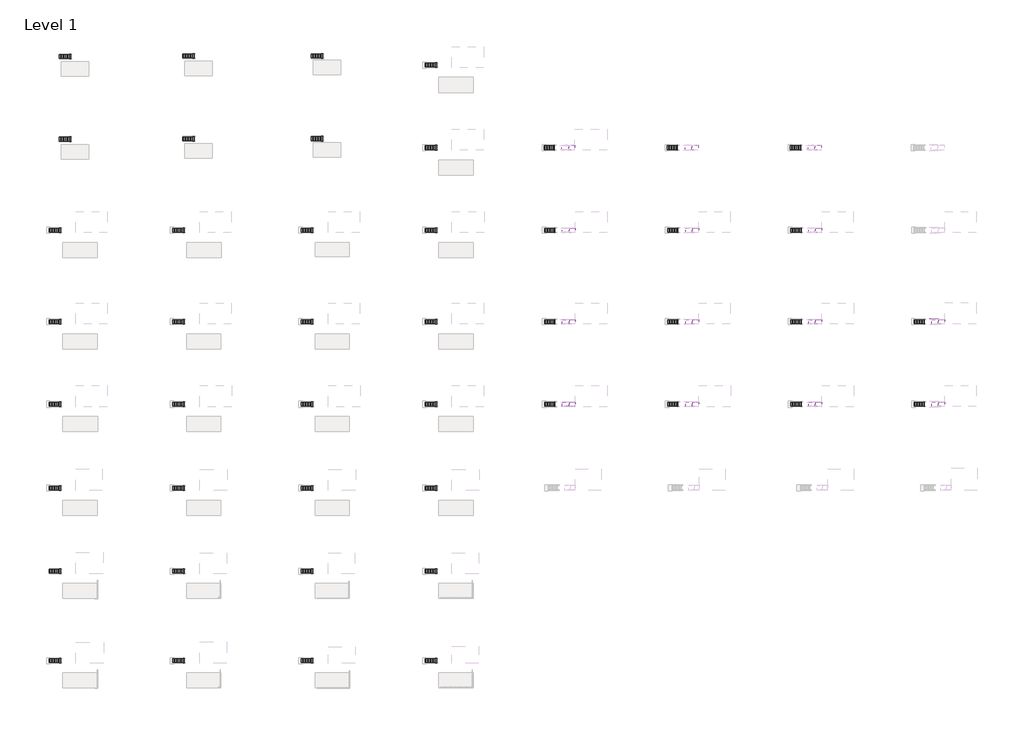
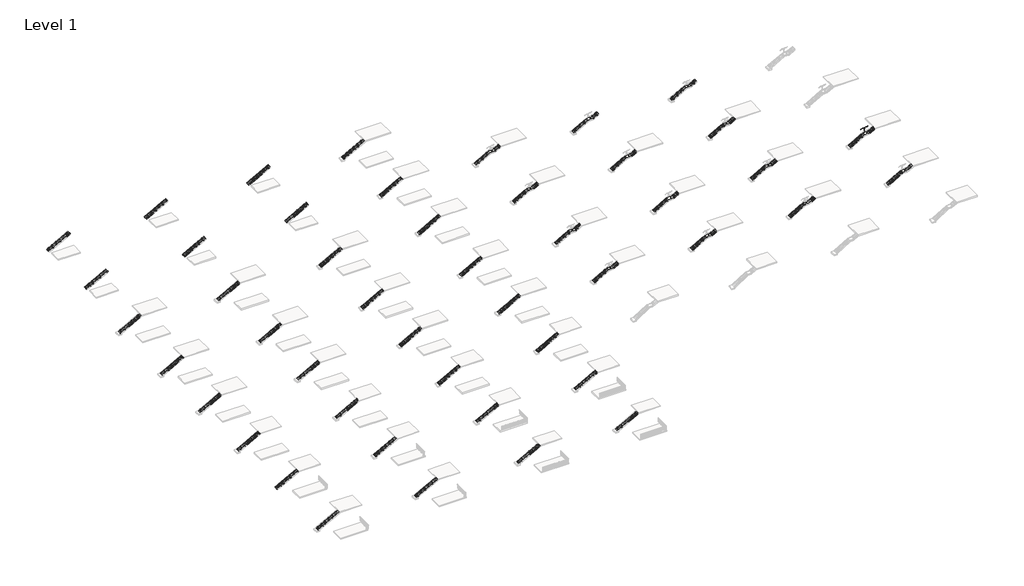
# One storey, part 28 of 36: 60 stair flights, 14 slabs, 1 railing.
"""IFC4 building model written with IfcOpenShell, lengths in millimetres."""

from ifc_helpers import new_model, si_unit, point, frame, frame_2d, origin, place, context, project, spatial, polyline, circle_curve, ellipse_curve, trimmed, segment, composite_curve, outline, extrude, transform, mapped, element, save
from ifc_brep_helpers import plane_surface, cylinder_surface, revolved_surface, advanced_brep
from components import non_monolithic_landing_ada5ac22, non_monolithic_landing_e0ff2bb4, non_monolithic_landing_e2370479, non_monolithic_landing_4aac39f3, non_monolithic_landing_6fb80745, non_monolithic_landing_be884bdb, non_monolithic_landing_87ee3a28, non_monolithic_landing_f27b7801, non_monolithic_landing_4aff053a, non_monolithic_landing_a7db1183, non_monolithic_landing_63f62785, non_monolithic_landing_69d5495d, non_monolithic_landing_90918b11, non_monolithic_landing_5d93acd5, stair_flight_29aa7a5e, stair_flight_80cff1b7, stair_flight_8e8130a2, stair_flight_fd9954e7, stair_flight_75b3b417, stair_flight_6f39d71a, stair_flight_cde1ea60, stair_flight_880be68a, stair_flight_54c0e317, stair_flight_4c12d816, stair_flight_4dab80b4, stair_flight_2d7099d6, stair_flight_d89cc62d, stair_flight_032d6450, stair_flight_6f00a75b, stair_flight_b4fc23ee, stair_flight_1a475ef1, stair_flight_e65b083a, stair_flight_a9e391cd, stair_flight_ea38ce52, stair_flight_579046b4, stair_flight_a4d97b63, stair_flight_d66cefcb, stair_flight_99901bd0, stair_flight_d6851f9f, stair_flight_cf73235f, stair_flight_5fa4b5d9, stair_flight_0c7f6dce, stair_flight_51c20a19, stair_flight_7c217fa4, stair_flight_b50581c1, stair_flight_dd9f26f4, stair_flight_8ca85bbc, stair_flight_9eae0647, stair_flight_39490ed9, stair_flight_10330e09, stair_flight_98662bac, stair_flight_fd0bef6d, stair_flight_df6e5273, stair_flight_89b698f5, stair_flight_f0a76901, stair_flight_8c9df97d, stair_flight_08e099c6, stair_flight_44d7aaed, stair_flight_6d338f01, stair_flight_8d318a11, stair_flight_28e633dc, stair_flight_106992fd, stair_flight_ad2e2b70, stair_flight_30a18637, stair_flight_90295c1e, stair_flight_840a28c2, stair_flight_46b084b7, stair_flight_d5f8b534, stair_flight_011fdecc, stair_flight_89fbb5f7, stair_flight_832208c3, stair_flight_b01917b2, stair_flight_5dec0d6c, stair_flight_9864251a

model = new_model("IFC4")

# Units and contexts
model_context = context("Model", 3, world=origin())
ifc_project = project(units=[si_unit("LENGTHUNIT", "METRE", prefix="MILLI")], contexts=[model_context])

# Site, building, storey
site = spatial("IfcSite", under=ifc_project)
building = spatial("IfcBuilding", under=site)
storey = spatial("IfcBuildingStorey", under=building, Name="Level 1", Elevation=0.0)

# Railing
placement = place(None, origin())
element("IfcRailing", 1, ObjectType="VIVA-BLADE-Perforated-Fascia Mount-Stair-Landing", at=placement, inside=storey, context=model_context, shape_type="SolidModel", body=[
    advanced_brep(
    [(161125.2211992, -1375.9711813, 3047.7740933), (161125.2211992, -1325.1711813, 3047.7740933), (161512.9665359, -1375.9711813, 3269.3428571), (161512.9665359, -1325.1711813, 3269.3428571), (162579.7665359, -1375.9711813, 3269.3428571), (162579.7665359, -1325.1711813, 3269.3428571), (162830.1961992, -1375.9711813, 3412.4455219), (162830.1961992, -1325.1711813, 3412.4455219)],
    [
        (0, 1, ellipse_curve(frame((161125.2211992, -1350.5711813, 3047.7740933), z_axis=(-1.0, 0.0, 0.0), x_axis=(0.0, 0.0, -1.0)), 29.2544781, 25.4)),
        (1, 0, ellipse_curve(frame((161125.2211992, -1350.5711813, 3047.7740933), z_axis=(-1.0, 0.0, 0.0), x_axis=(0.0, 0.0, -1.0)), 29.2544781, 25.4)),
        (0, 2),
        (2, 3, ellipse_curve(frame((161512.9665359, -1350.5711813, 3269.3428571), z_axis=(-0.9664996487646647, 0.0, -0.25666793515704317), x_axis=(0.2566679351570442, 0.0, -0.9664996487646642)), 26.2804027, 25.4)),
        (3, 1),
        (3, 2, ellipse_curve(frame((161512.9665359, -1350.5711813, 3269.3428571), z_axis=(-0.9664996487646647, 0.0, -0.25666793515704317), x_axis=(0.2566679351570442, 0.0, -0.9664996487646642)), 26.2804027, 25.4)),
        (2, 4),
        (4, 5, ellipse_curve(frame((162579.7665359, -1350.5711813, 3269.3428571), z_axis=(-0.966499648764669, 0.0, -0.25666793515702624), x_axis=(-0.25666793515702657, 0.0, 0.966499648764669)), 26.2804027, 25.4)),
        (5, 3),
        (5, 4, ellipse_curve(frame((162579.7665359, -1350.5711813, 3269.3428571), z_axis=(-0.966499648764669, 0.0, -0.25666793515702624), x_axis=(-0.25666793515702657, 0.0, 0.966499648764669)), 26.2804027, 25.4)),
        (6, 7, ellipse_curve(frame((162830.1961992, -1350.5711813, 3412.4455219), z_axis=(1.0, 0.0, 0.0), x_axis=(0.0, 0.0, -1.0)), 29.2544781, 25.4)),
        (7, 6, ellipse_curve(frame((162830.1961992, -1350.5711813, 3412.4455219), z_axis=(1.0, 0.0, 0.0), x_axis=(0.0, 0.0, -1.0)), 29.2544781, 25.4)),
        (4, 6),
        (7, 5),
    ],
    [
        plane_surface(frame((161125.2211992, -1350.5711813, 3077.0285714), z_axis=(-1.0, 0.0, 0.0), x_axis=(0.0, 1.0, 0.0))),
        cylinder_surface(frame((161137.8231282, -1350.5711813, 3054.9751956), z_axis=(-0.8682431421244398, 0.0, -0.49613893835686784), x_axis=(0.0, 1.0, 0.0)), 25.4),
        cylinder_surface(frame((161506.2211992, -1350.5711813, 3269.3428571), z_axis=(-1.0, 0.0, 0.0), x_axis=(0.0, 1.0, 0.0)), 25.4),
        plane_surface(frame((162830.1961992, -1350.5711813, 3441.7), z_axis=(1.0, 0.0, 0.0), x_axis=(0.0, 1.0, 0.0))),
        cylinder_surface(frame((162585.6231282, -1350.5711813, 3272.6894813), z_axis=(-0.8682431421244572, 0.0, -0.49613893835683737), x_axis=(0.0, 1.0, 0.0)), 25.4),
    ],
    [
        (0, [[1, 2]]),
        (1, [[-1, 3, 4, 5]]),
        (1, [[-2, -5, 6, -3]]),
        (2, [[-4, 7, 8, 9]]),
        (2, [[-6, -9, 10, -7]]),
        (3, [[11, 12]]),
        (4, [[-8, 13, -12, 14]]),
        (4, [[-10, -14, -11, -13]]),
    ],
),
    extrude(outline(composite_curve([segment(trimmed(circle_curve(frame_2d((0.0, -7.0)), 7.0), [point((0.0, -14.0))], [point((0.0, 0.0))], False, "CARTESIAN"), True, "CONTINUOUS"), segment(trimmed(circle_curve(frame_2d((0.0, -7.0)), 7.0), [point((0.0, 0.0))], [point((0.0, -14.0))], False, "CARTESIAN"), True, "CONTINUOUS")], self_intersect=False)), frame((161977.6244493, -1436.2548038, 3013.7229503), z_axis=(0.0012555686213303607, 0.0, 0.999999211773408), x_axis=(0.999999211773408, 0.0, -0.0012555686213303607)), (0.0, 0.0, 1.0), 75.97),
    extrude(outline(composite_curve([segment(polyline([(-1430.9731476, 3098.2581672), (-1429.9467579, 3097.2407802)]), True, "CONTINUOUS"), segment(trimmed(circle_curve(frame_2d((-1431.0027358, 3096.1754583)), 1.5), [point((-1429.9467579, 3097.2407802))], [point((-1430.0173343, 3095.0445366))], False, "CARTESIAN"), True, "CONTINUOUS"), segment(trimmed(circle_curve(frame_2d((-1444.5027358, 3111.669086)), 22.05), [point((-1430.0173343, 3095.0445366))], [point((-1458.9881373, 3095.0445366))], False, "CARTESIAN"), True, "CONTINUOUS"), segment(trimmed(circle_curve(frame_2d((-1458.0027358, 3096.1754583)), 1.5), [point((-1458.9881373, 3095.0445366))], [point((-1459.0587136, 3097.2407802))], False, "CARTESIAN"), True, "CONTINUOUS"), segment(polyline([(-1459.0587136, 3097.2407802), (-1458.032324, 3098.2581672)]), True, "CONTINUOUS"), segment(trimmed(circle_curve(frame_2d((-1444.5027358, 3111.669086)), 19.05), [point((-1458.032324, 3098.2581672))], [point((-1430.9731476, 3098.2581672))], True, "CARTESIAN"), True, "CONTINUOUS")], self_intersect=False)), frame((161941.2730645, 0.0, 0.0), z_axis=(1.0, 0.0, 0.0), x_axis=(0.0, 1.0, 0.0)), (0.0, 0.0, 1.0), 74.5229187),
    extrude(outline(composite_curve([segment(trimmed(circle_curve(frame_2d((3040.5995463, 161977.6843528)), 12.5), [point((3040.5995463, 161965.1843528))], [point((3040.5995463, 161990.1843528))], False, "CARTESIAN"), True, "CONTINUOUS"), segment(trimmed(circle_curve(frame_2d((3040.5995463, 161977.6843528)), 12.5), [point((3040.5995463, 161990.1843528))], [point((3040.5995463, 161965.1843528))], False, "CARTESIAN"), True, "CONTINUOUS")], self_intersect=False)), frame((0.0, -1458.032324, 0.0), z_axis=(0.0, 1.0, 0.0), x_axis=(0.0, 0.0, 1.0)), (0.0, 0.0, 1.0), 82.061346),
    extrude(outline(polyline([(162004.7835349, -1382.320978), (161950.6561349, -1382.320978), (161950.6561349, -1375.970978), (162004.7835349, -1375.970978), (162004.7835349, -1382.320978)])), frame((0.0, 0.0, 3013.6558249), z_axis=(0.0, 0.0, 1.0), x_axis=(1.0, 0.0, 0.0)), (0.0, 0.0, 1.0), 54.1734375),
    advanced_brep(
    [(162022.9460992, -1363.3313049, 3247.3396226), (162022.9460992, -1367.1672024, 3242.9503901), (162022.9460992, -1335.6503101, 3242.3696317), (162022.9460992, -1338.4592404, 3247.1963856), (161932.4712992, -1363.3313049, 3247.3396226), (161932.4712992, -1338.3722683, 3247.2447018), (161932.4712992, -1335.5365167, 3242.4322535), (161932.4712992, -1367.1672024, 3242.9503901)],
    [
        (0, 1, circle_curve(frame((162022.9460992, -1364.8788626, 3244.8213092), z_axis=(1.0, 0.0, 0.0), x_axis=(0.0, -1.0, 0.0)), 2.9558141)),
        (1, 2, circle_curve(frame((162022.9460992, -1350.9009651, 3270.2170736), z_axis=(1.0, 0.0, 0.0), x_axis=(0.0, -1.0, 0.0)), 31.75)),
        (2, 3, circle_curve(frame((162022.9460992, -1337.1276152, 3244.742217), z_axis=(1.0, 0.0, 0.0), x_axis=(0.0, -1.0, 0.0)), 2.7949225)),
        (3, 0, circle_curve(frame((162022.9460992, -1350.7675021, 3269.4544469), z_axis=(-1.0, 0.0, 0.0), x_axis=(0.0, -1.0, 0.0)), 25.4345159)),
        (4, 5, circle_curve(frame((161932.4712992, -1350.7675021, 3269.4544469), z_axis=(1.0, 0.0, 0.0), x_axis=(0.0, -1.0, 0.0)), 25.4345159)),
        (5, 6, circle_curve(frame((161932.4712992, -1337.1276152, 3244.742217), z_axis=(-1.0, 0.0, 0.0), x_axis=(0.0, -1.0, 0.0)), 2.7949225)),
        (6, 7, circle_curve(frame((161932.4712992, -1350.9009651, 3270.2170736), z_axis=(-1.0, 0.0, 0.0), x_axis=(0.0, -1.0, 0.0)), 31.75)),
        (7, 4, circle_curve(frame((161932.4712992, -1364.8788626, 3244.8213092), z_axis=(-1.0, 0.0, 0.0), x_axis=(0.0, -1.0, 0.0)), 2.9558141)),
        (3, 5),
        (4, 0),
        (2, 6),
        (1, 7),
    ],
    [
        plane_surface(frame((162022.9460992, -1376.2020179, 3269.4544469), z_axis=(1.0, 0.0, 0.0), x_axis=(0.0, 0.0, -1.0))),
        plane_surface(frame((161932.4712992, -1376.2020179, 3269.4544469), z_axis=(-1.0, 0.0, 0.0), x_axis=(0.0, 0.0, 1.0))),
        revolved_surface(polyline([(161932.4712992, -1376.202018, 3269.4544469), (162022.9460992, -1376.202018, 3269.4544469)]), (161932.4712992, -1350.7675021, 3269.4544469), (-1.0, 0.0, 0.0)),
        cylinder_surface(frame((161932.4712992, -1337.1276152, 3244.742217), z_axis=(1.0, 0.0, 0.0), x_axis=(0.0, -1.0, 0.0)), 2.7949225),
        cylinder_surface(frame((161932.4712992, -1350.9009651, 3270.2170736), z_axis=(1.0, 0.0, 0.0), x_axis=(0.0, -1.0, 0.0)), 31.75),
        cylinder_surface(frame((161932.4712992, -1364.8788626, 3244.8213092), z_axis=(1.0, 0.0, 0.0), x_axis=(0.0, -1.0, 0.0)), 2.9558141),
    ],
    [
        (0, [[1, 2, 3, 4]]),
        (1, [[5, 6, 7, 8]]),
        (2, [[9, -5, 10, -4]]),
        (3, [[11, -6, -9, -3]]),
        (4, [[12, -7, -11, -2]]),
        (5, [[-10, -8, -12, -1]]),
    ],
),
    extrude(outline(polyline([(162041.1967623, -1426.771387), (161914.1967623, -1426.771387), (161914.1967623, -1417.246387), (162041.1967623, -1417.246387), (162041.1967623, -1426.771387)])), frame((0.0, 0.0, 2024.7428571), z_axis=(0.0, 0.0, 1.0), x_axis=(1.0, 0.0, 0.0)), (0.0, 0.0, 1.0), 127.0),
    extrude(outline(composite_curve([segment(trimmed(circle_curve(frame_2d((3229.6553571, 162004.776614)), 14.3679149), [point((3229.6553571, 161990.4086992))], [point((3244.023272, 162004.776614))], True, "CARTESIAN"), True, "CONTINUOUS"), segment(polyline([(3244.023272, 162004.776614), (3244.023272, 161950.6407843)]), True, "CONTINUOUS"), segment(trimmed(circle_curve(frame_2d((3229.6553571, 161950.6407843)), 14.3679149), [point((3244.023272, 161950.6407843))], [point((3229.6553571, 161965.0086992))], True, "CARTESIAN"), True, "CONTINUOUS"), segment(polyline([(3229.6553571, 161965.0086992), (3229.6553571, 161990.4086992)]), True, "CONTINUOUS")], self_intersect=False)), frame((0.0, -1353.1111813, 0.0), z_axis=(0.0, 1.0, 0.0), x_axis=(0.0, 0.0, 1.0)), (0.0, 0.0, 1.0), 5.08),
    extrude(outline(polyline([(161985.6377004, -1407.721387), (161969.70171, -1407.721387), (161969.70171, -1375.9705791), (161985.6377004, -1375.9705791), (161985.6377004, -1407.721387)])), frame((0.0, 0.0, 2056.4928571), z_axis=(0.0, 0.0, 1.0), x_axis=(1.0, 0.0, 0.0)), (0.0, 0.0, 1.0), 63.5),
    extrude(outline(polyline([(161950.6338635, -1375.970978), (161950.6338635, -1325.1686534), (161958.6586992, -1325.1686534), (161958.6586992, -1375.970978), (161950.6338635, -1375.970978)])), frame((0.0, 0.0, 2269.3940557), z_axis=(0.0, 0.0, 1.0), x_axis=(1.0, 0.0, 0.0)), (0.0, 0.0, 1.0), 942.7988015),
    extrude(outline(polyline([(2024.7428571, 161914.1967623), (2024.7428571, 162041.1967623), (2151.7428571, 162041.1967623), (2151.7428571, 161914.1967623), (2024.7428571, 161914.1967623)]), holes=[composite_curve([segment(trimmed(circle_curve(frame_2d((2132.6928571, 161933.2467623)), 4.7068371), [point((2132.6928571, 161937.9535994))], [point((2132.6928571, 161928.5399252))], True, "CARTESIAN"), True, "CONTINUOUS"), segment(trimmed(circle_curve(frame_2d((2132.6928571, 161933.2467623)), 4.7068371), [point((2132.6928571, 161928.5399252))], [point((2132.6928571, 161937.9535994))], True, "CARTESIAN"), True, "CONTINUOUS")], self_intersect=False), composite_curve([segment(trimmed(circle_curve(frame_2d((2132.6928571, 162022.1467623)), 4.7068371), [point((2132.6928571, 162026.8535994))], [point((2132.6928571, 162017.4399252))], True, "CARTESIAN"), True, "CONTINUOUS"), segment(trimmed(circle_curve(frame_2d((2132.6928571, 162022.1467623)), 4.7068371), [point((2132.6928571, 162017.4399252))], [point((2132.6928571, 162026.8535994))], True, "CARTESIAN"), True, "CONTINUOUS")], self_intersect=False), composite_curve([segment(trimmed(circle_curve(frame_2d((2043.7928571, 162022.1467623)), 4.7068371), [point((2043.7928571, 162026.8535994))], [point((2043.7928571, 162017.4399252))], True, "CARTESIAN"), True, "CONTINUOUS"), segment(trimmed(circle_curve(frame_2d((2043.7928571, 162022.1467623)), 4.7068371), [point((2043.7928571, 162017.4399252))], [point((2043.7928571, 162026.8535994))], True, "CARTESIAN"), True, "CONTINUOUS")], self_intersect=False), composite_curve([segment(trimmed(circle_curve(frame_2d((2043.7928571, 161933.2467623)), 4.7068371), [point((2043.7928571, 161937.9535994))], [point((2043.7928571, 161928.5399252))], True, "CARTESIAN"), True, "CONTINUOUS"), segment(trimmed(circle_curve(frame_2d((2043.7928571, 161933.2467623)), 4.7068371), [point((2043.7928571, 161928.5399252))], [point((2043.7928571, 161937.9535994))], True, "CARTESIAN"), True, "CONTINUOUS")], self_intersect=False)]), frame((0.0, -1417.246387, 0.0), z_axis=(0.0, 1.0, 0.0), x_axis=(0.0, 0.0, 1.0)), (0.0, 0.0, 1.0), 9.525),
    extrude(outline(polyline([(161985.6377004, -1375.9705791), (161969.70171, -1375.9705791), (161969.70171, -1325.1705869), (161985.6377004, -1325.1705869), (161985.6377004, -1375.9705791)])), frame((0.0, 0.0, 2056.4928571), z_axis=(0.0, 0.0, 1.0), x_axis=(1.0, 0.0, 0.0)), (0.0, 0.0, 1.0), 393.7),
    extrude(outline(composite_curve([segment(trimmed(circle_curve(frame_2d((-1337.8687044, 3201.2845501)), 8.89), [point((-1328.9787044, 3201.2845501))], [point((-1346.7587044, 3201.2845501))], False, "CARTESIAN"), True, "CONTINUOUS"), segment(trimmed(circle_curve(frame_2d((-1337.8687044, 3201.2845501)), 8.89), [point((-1346.7587044, 3201.2845501))], [point((-1328.9787044, 3201.2845501))], False, "CARTESIAN"), True, "CONTINUOUS")], self_intersect=False)), frame((161945.9586992, 0.0, 0.0), z_axis=(1.0, 0.0, 0.0), x_axis=(0.0, 1.0, 0.0)), (0.0, 0.0, 1.0), 63.4880631),
    extrude(outline(composite_curve([segment(trimmed(circle_curve(frame_2d((-1363.2686024, 3201.2845501)), 8.89), [point((-1354.3786024, 3201.2845501))], [point((-1372.1586024, 3201.2845501))], False, "CARTESIAN"), True, "CONTINUOUS"), segment(trimmed(circle_curve(frame_2d((-1363.2686024, 3201.2845501)), 8.89), [point((-1372.1586024, 3201.2845501))], [point((-1354.3786024, 3201.2845501))], False, "CARTESIAN"), True, "CONTINUOUS")], self_intersect=False)), frame((161945.9586992, 0.0, 0.0), z_axis=(1.0, 0.0, 0.0), x_axis=(0.0, 1.0, 0.0)), (0.0, 0.0, 1.0), 63.4880631),
    extrude(outline(polyline([(3189.9551571, 161958.6586992), (3189.9551571, 161996.7586992), (3223.3053571, 161996.7586992), (3229.6553571, 161990.4086992), (3229.6553571, 161965.0086992), (3223.3053571, 161958.6586992), (3189.9551571, 161958.6586992)])), frame((0.0, -1375.9711813, 0.0), z_axis=(0.0, 1.0, 0.0), x_axis=(0.0, 0.0, 1.0)), (0.0, 0.0, 1.0), 50.8025279),
    extrude(outline(composite_curve([segment(trimmed(circle_curve(frame_2d((-1350.571387, 2416.8976493)), 19.05), [point((-1331.521387, 2416.8976493))], [point((-1369.621387, 2416.8976493))], False, "CARTESIAN"), True, "CONTINUOUS"), segment(trimmed(circle_curve(frame_2d((-1350.571387, 2416.8976493)), 19.05), [point((-1369.621387, 2416.8976493))], [point((-1331.521387, 2416.8976493))], False, "CARTESIAN"), True, "CONTINUOUS")], self_intersect=False)), frame((161941.2596992, 0.0, 0.0), z_axis=(1.0, 0.0, 0.0), x_axis=(0.0, 1.0, 0.0)), (0.0, 0.0, 1.0), 72.8981531),
    extrude(outline(composite_curve([segment(trimmed(circle_curve(frame_2d((-1350.571387, 2327.9976493)), 19.05), [point((-1331.521387, 2327.9976493))], [point((-1369.621387, 2327.9976493))], False, "CARTESIAN"), True, "CONTINUOUS"), segment(trimmed(circle_curve(frame_2d((-1350.571387, 2327.9976493)), 19.05), [point((-1369.621387, 2327.9976493))], [point((-1331.521387, 2327.9976493))], False, "CARTESIAN"), True, "CONTINUOUS")], self_intersect=False)), frame((161941.2596992, 0.0, 0.0), z_axis=(1.0, 0.0, 0.0), x_axis=(0.0, 1.0, 0.0)), (0.0, 0.0, 1.0), 72.8981531),
    extrude(outline(polyline([(161996.7586611, -1375.970978), (161996.7586611, -1325.1686534), (162004.7596611, -1325.1686534), (162004.7596611, -1375.970978), (161996.7586611, -1375.970978)])), frame((0.0, 0.0, 2269.3940557), z_axis=(0.0, 0.0, 1.0), x_axis=(1.0, 0.0, 0.0)), (0.0, 0.0, 1.0), 942.7988015),
])

# Slabs
non_monolithic_landing_shape = non_monolithic_landing_ada5ac22(model_context)
element("IfcSlab", 2, ObjectType="Non-Monolithic Landing", at=placement, inside=storey, context=model_context, shape_type="MappedRepresentation", body=[
    mapped(non_monolithic_landing_shape, transform((0.0, 0.0, 0.0), x_axis=(1.0, 0.0, 0.0), y_axis=(0.0, 1.0, 0.0), z_axis=(0.0, 0.0, 1.0))),
])
non_monolithic_landing_2_shape = non_monolithic_landing_e0ff2bb4(model_context)
element("IfcSlab", 3, ObjectType="Non-Monolithic Landing", at=placement, inside=storey, context=model_context, shape_type="MappedRepresentation", body=[
    mapped(non_monolithic_landing_2_shape, transform((0.0, 0.0, 0.0), x_axis=(1.0, 0.0, 0.0), y_axis=(0.0, 1.0, 0.0), z_axis=(0.0, 0.0, 1.0))),
])
non_monolithic_landing_3_shape = non_monolithic_landing_e2370479(model_context)
element("IfcSlab", 4, ObjectType="Non-Monolithic Landing", at=placement, inside=storey, context=model_context, shape_type="MappedRepresentation", body=[
    mapped(non_monolithic_landing_3_shape, transform((0.0, 0.0, 0.0), x_axis=(1.0, 0.0, 0.0), y_axis=(0.0, 1.0, 0.0), z_axis=(0.0, 0.0, 1.0))),
])
non_monolithic_landing_4_shape = non_monolithic_landing_4aac39f3(model_context)
element("IfcSlab", 5, ObjectType="Non-Monolithic Landing", at=placement, inside=storey, context=model_context, shape_type="MappedRepresentation", body=[
    mapped(non_monolithic_landing_4_shape, transform((0.0, 0.0, 0.0), x_axis=(1.0, 0.0, 0.0), y_axis=(0.0, 1.0, 0.0), z_axis=(0.0, 0.0, 1.0))),
])
non_monolithic_landing_5_shape = non_monolithic_landing_6fb80745(model_context)
element("IfcSlab", 6, ObjectType="Non-Monolithic Landing", at=placement, inside=storey, context=model_context, shape_type="MappedRepresentation", body=[
    mapped(non_monolithic_landing_5_shape, transform((0.0, 0.0, 0.0), x_axis=(1.0, 0.0, 0.0), y_axis=(0.0, 1.0, 0.0), z_axis=(0.0, 0.0, 1.0))),
])
non_monolithic_landing_6_shape = non_monolithic_landing_be884bdb(model_context)
element("IfcSlab", 7, ObjectType="Non-Monolithic Landing", at=placement, inside=storey, context=model_context, shape_type="MappedRepresentation", body=[
    mapped(non_monolithic_landing_6_shape, transform((0.0, 0.0, 0.0), x_axis=(1.0, 0.0, 0.0), y_axis=(0.0, 1.0, 0.0), z_axis=(0.0, 0.0, 1.0))),
])
non_monolithic_landing_7_shape = non_monolithic_landing_87ee3a28(model_context)
element("IfcSlab", 8, ObjectType="Non-Monolithic Landing", at=placement, inside=storey, context=model_context, shape_type="MappedRepresentation", body=[
    mapped(non_monolithic_landing_7_shape, transform((0.0, 0.0, 0.0), x_axis=(1.0, 0.0, 0.0), y_axis=(0.0, 1.0, 0.0), z_axis=(0.0, 0.0, 1.0))),
])
non_monolithic_landing_8_shape = non_monolithic_landing_f27b7801(model_context)
element("IfcSlab", 9, ObjectType="Non-Monolithic Landing", at=placement, inside=storey, context=model_context, shape_type="MappedRepresentation", body=[
    mapped(non_monolithic_landing_8_shape, transform((0.0, 0.0, 0.0), x_axis=(1.0, 0.0, 0.0), y_axis=(0.0, 1.0, 0.0), z_axis=(0.0, 0.0, 1.0))),
])
non_monolithic_landing_9_shape = non_monolithic_landing_4aff053a(model_context)
element("IfcSlab", 10, ObjectType="Non-Monolithic Landing", at=placement, inside=storey, context=model_context, shape_type="MappedRepresentation", body=[
    mapped(non_monolithic_landing_9_shape, transform((0.0, 0.0, 0.0), x_axis=(1.0, 0.0, 0.0), y_axis=(0.0, 1.0, 0.0), z_axis=(0.0, 0.0, 1.0))),
])
non_monolithic_landing_10_shape = non_monolithic_landing_a7db1183(model_context)
element("IfcSlab", 11, ObjectType="Non-Monolithic Landing", at=placement, inside=storey, context=model_context, shape_type="MappedRepresentation", body=[
    mapped(non_monolithic_landing_10_shape, transform((0.0, 0.0, 0.0), x_axis=(1.0, 0.0, 0.0), y_axis=(0.0, 1.0, 0.0), z_axis=(0.0, 0.0, 1.0))),
])
non_monolithic_landing_11_shape = non_monolithic_landing_63f62785(model_context)
element("IfcSlab", 12, ObjectType="Non-Monolithic Landing", at=placement, inside=storey, context=model_context, shape_type="MappedRepresentation", body=[
    mapped(non_monolithic_landing_11_shape, transform((0.0, 0.0, 0.0), x_axis=(1.0, 0.0, 0.0), y_axis=(0.0, 1.0, 0.0), z_axis=(0.0, 0.0, 1.0))),
])
non_monolithic_landing_12_shape = non_monolithic_landing_69d5495d(model_context)
element("IfcSlab", 13, ObjectType="Non-Monolithic Landing", at=placement, inside=storey, context=model_context, shape_type="MappedRepresentation", body=[
    mapped(non_monolithic_landing_12_shape, transform((0.0, 0.0, 0.0), x_axis=(1.0, 0.0, 0.0), y_axis=(0.0, 1.0, 0.0), z_axis=(0.0, 0.0, 1.0))),
])
non_monolithic_landing_13_shape = non_monolithic_landing_90918b11(model_context)
element("IfcSlab", 14, ObjectType="Non-Monolithic Landing", at=placement, inside=storey, context=model_context, shape_type="MappedRepresentation", body=[
    mapped(non_monolithic_landing_13_shape, transform((0.0, 0.0, 0.0), x_axis=(1.0, 0.0, 0.0), y_axis=(0.0, 1.0, 0.0), z_axis=(0.0, 0.0, 1.0))),
])
non_monolithic_landing_14_shape = non_monolithic_landing_5d93acd5(model_context)
element("IfcSlab", 15, ObjectType="Non-Monolithic Landing", at=placement, inside=storey, context=model_context, shape_type="MappedRepresentation", body=[
    mapped(non_monolithic_landing_14_shape, transform((0.0, 0.0, 0.0), x_axis=(1.0, 0.0, 0.0), y_axis=(0.0, 1.0, 0.0), z_axis=(0.0, 0.0, 1.0))),
])

# Stair flights
stair_flight_shape = stair_flight_29aa7a5e(model_context)
element("IfcStairFlight", 16, ObjectType="2\" Tread 1/4\" Riser", at=placement, inside=storey, context=model_context, shape_type="MappedRepresentation", body=[
    mapped(stair_flight_shape, transform((0.0, 0.0, 0.0), x_axis=(1.0, 0.0, 0.0), y_axis=(0.0, 1.0, 0.0), z_axis=(0.0, 0.0, 1.0))),
])
stair_flight_2_shape = stair_flight_80cff1b7(model_context)
element("IfcStairFlight", 17, ObjectType="2\" Tread 1/4\" Riser", at=placement, inside=storey, context=model_context, shape_type="MappedRepresentation", body=[
    mapped(stair_flight_2_shape, transform((0.0, 0.0, 0.0), x_axis=(1.0, 0.0, 0.0), y_axis=(0.0, 1.0, 0.0), z_axis=(0.0, 0.0, 1.0))),
])
stair_flight_3_shape = stair_flight_8e8130a2(model_context)
element("IfcStairFlight", 18, ObjectType="2\" Tread 1/4\" Riser", at=placement, inside=storey, context=model_context, shape_type="MappedRepresentation", body=[
    mapped(stair_flight_3_shape, transform((0.0, 0.0, 0.0), x_axis=(1.0, 0.0, 0.0), y_axis=(0.0, 1.0, 0.0), z_axis=(0.0, 0.0, 1.0))),
])
stair_flight_4_shape = stair_flight_fd9954e7(model_context)
element("IfcStairFlight", 19, ObjectType="2\" Tread 1/4\" Riser", at=placement, inside=storey, context=model_context, shape_type="MappedRepresentation", body=[
    mapped(stair_flight_4_shape, transform((0.0, 0.0, 0.0), x_axis=(1.0, 0.0, 0.0), y_axis=(0.0, 1.0, 0.0), z_axis=(0.0, 0.0, 1.0))),
])
stair_flight_5_shape = stair_flight_75b3b417(model_context)
element("IfcStairFlight", 20, ObjectType="2\" Tread 1/4\" Riser", at=placement, inside=storey, context=model_context, shape_type="MappedRepresentation", body=[
    mapped(stair_flight_5_shape, transform((0.0, 0.0, 0.0), x_axis=(1.0, 0.0, 0.0), y_axis=(0.0, 1.0, 0.0), z_axis=(0.0, 0.0, 1.0))),
])
stair_flight_6_shape = stair_flight_6f39d71a(model_context)
element("IfcStairFlight", 21, ObjectType="2\" Tread 1/4\" Riser", at=placement, inside=storey, context=model_context, shape_type="MappedRepresentation", body=[
    mapped(stair_flight_6_shape, transform((0.0, 0.0, 0.0), x_axis=(1.0, 0.0, 0.0), y_axis=(0.0, 1.0, 0.0), z_axis=(0.0, 0.0, 1.0))),
])
stair_flight_7_shape = stair_flight_cde1ea60(model_context)
element("IfcStairFlight", 22, ObjectType="2\" Tread 1/4\" Riser", at=placement, inside=storey, context=model_context, shape_type="MappedRepresentation", body=[
    mapped(stair_flight_7_shape, transform((0.0, 0.0, 0.0), x_axis=(1.0, 0.0, 0.0), y_axis=(0.0, 1.0, 0.0), z_axis=(0.0, 0.0, 1.0))),
])
stair_flight_8_shape = stair_flight_880be68a(model_context)
element("IfcStairFlight", 23, ObjectType="2\" Tread 1/4\" Riser", at=placement, inside=storey, context=model_context, shape_type="MappedRepresentation", body=[
    mapped(stair_flight_8_shape, transform((0.0, 0.0, 0.0), x_axis=(1.0, 0.0, 0.0), y_axis=(0.0, 1.0, 0.0), z_axis=(0.0, 0.0, 1.0))),
])
stair_flight_9_shape = stair_flight_54c0e317(model_context)
element("IfcStairFlight", 24, ObjectType="2\" Tread 1/4\" Riser", at=placement, inside=storey, context=model_context, shape_type="MappedRepresentation", body=[
    mapped(stair_flight_9_shape, transform((0.0, 0.0, 0.0), x_axis=(1.0, 0.0, 0.0), y_axis=(0.0, 1.0, 0.0), z_axis=(0.0, 0.0, 1.0))),
])
stair_flight_10_shape = stair_flight_4c12d816(model_context)
element("IfcStairFlight", 25, ObjectType="2\" Tread 1/4\" Riser", at=placement, inside=storey, context=model_context, shape_type="MappedRepresentation", body=[
    mapped(stair_flight_10_shape, transform((0.0, 0.0, 0.0), x_axis=(1.0, 0.0, 0.0), y_axis=(0.0, 1.0, 0.0), z_axis=(0.0, 0.0, 1.0))),
])
stair_flight_11_shape = stair_flight_4dab80b4(model_context)
element("IfcStairFlight", 26, ObjectType="2\" Tread 1/4\" Riser", at=placement, inside=storey, context=model_context, shape_type="MappedRepresentation", body=[
    mapped(stair_flight_11_shape, transform((0.0, 0.0, 0.0), x_axis=(1.0, 0.0, 0.0), y_axis=(0.0, 1.0, 0.0), z_axis=(0.0, 0.0, 1.0))),
])
stair_flight_12_shape = stair_flight_2d7099d6(model_context)
element("IfcStairFlight", 27, ObjectType="2\" Tread 1/4\" Riser", at=placement, inside=storey, context=model_context, shape_type="MappedRepresentation", body=[
    mapped(stair_flight_12_shape, transform((0.0, 0.0, 0.0), x_axis=(1.0, 0.0, 0.0), y_axis=(0.0, 1.0, 0.0), z_axis=(0.0, 0.0, 1.0))),
])
stair_flight_13_shape = stair_flight_d89cc62d(model_context)
element("IfcStairFlight", 28, ObjectType="2\" Tread 1/4\" Riser", at=placement, inside=storey, context=model_context, shape_type="MappedRepresentation", body=[
    mapped(stair_flight_13_shape, transform((0.0, 0.0, 0.0), x_axis=(1.0, 0.0, 0.0), y_axis=(0.0, 1.0, 0.0), z_axis=(0.0, 0.0, 1.0))),
])
stair_flight_14_shape = stair_flight_032d6450(model_context)
element("IfcStairFlight", 29, ObjectType="2\" Tread 1/4\" Riser", at=placement, inside=storey, context=model_context, shape_type="MappedRepresentation", body=[
    mapped(stair_flight_14_shape, transform((0.0, 0.0, 0.0), x_axis=(1.0, 0.0, 0.0), y_axis=(0.0, 1.0, 0.0), z_axis=(0.0, 0.0, 1.0))),
])
stair_flight_15_shape = stair_flight_6f00a75b(model_context)
element("IfcStairFlight", 30, ObjectType="2\" Tread 1/4\" Riser", at=placement, inside=storey, context=model_context, shape_type="MappedRepresentation", body=[
    mapped(stair_flight_15_shape, transform((0.0, 0.0, 0.0), x_axis=(1.0, 0.0, 0.0), y_axis=(0.0, 1.0, 0.0), z_axis=(0.0, 0.0, 1.0))),
])
stair_flight_16_shape = stair_flight_b4fc23ee(model_context)
element("IfcStairFlight", 31, ObjectType="2\" Tread 1/4\" Riser", at=placement, inside=storey, context=model_context, shape_type="MappedRepresentation", body=[
    mapped(stair_flight_16_shape, transform((0.0, 0.0, 0.0), x_axis=(1.0, 0.0, 0.0), y_axis=(0.0, 1.0, 0.0), z_axis=(0.0, 0.0, 1.0))),
])
stair_flight_17_shape = stair_flight_1a475ef1(model_context)
element("IfcStairFlight", 32, ObjectType="2\" Tread 1/4\" Riser", at=placement, inside=storey, context=model_context, shape_type="MappedRepresentation", body=[
    mapped(stair_flight_17_shape, transform((0.0, 0.0, 0.0), x_axis=(1.0, 0.0, 0.0), y_axis=(0.0, 1.0, 0.0), z_axis=(0.0, 0.0, 1.0))),
])
stair_flight_18_shape = stair_flight_e65b083a(model_context)
element("IfcStairFlight", 33, ObjectType="2\" Tread 1/4\" Riser", at=placement, inside=storey, context=model_context, shape_type="MappedRepresentation", body=[
    mapped(stair_flight_18_shape, transform((0.0, 0.0, 0.0), x_axis=(1.0, 0.0, 0.0), y_axis=(0.0, 1.0, 0.0), z_axis=(0.0, 0.0, 1.0))),
])
stair_flight_19_shape = stair_flight_a9e391cd(model_context)
element("IfcStairFlight", 34, ObjectType="2\" Tread 1/4\" Riser", at=placement, inside=storey, context=model_context, shape_type="MappedRepresentation", body=[
    mapped(stair_flight_19_shape, transform((0.0, 0.0, 0.0), x_axis=(1.0, 0.0, 0.0), y_axis=(0.0, 1.0, 0.0), z_axis=(0.0, 0.0, 1.0))),
])
stair_flight_20_shape = stair_flight_ea38ce52(model_context)
element("IfcStairFlight", 35, ObjectType="2\" Tread 1/4\" Riser", at=placement, inside=storey, context=model_context, shape_type="MappedRepresentation", body=[
    mapped(stair_flight_20_shape, transform((0.0, 0.0, 0.0), x_axis=(1.0, 0.0, 0.0), y_axis=(0.0, 1.0, 0.0), z_axis=(0.0, 0.0, 1.0))),
])
stair_flight_21_shape = stair_flight_579046b4(model_context)
element("IfcStairFlight", 36, ObjectType="2\" Tread 1/4\" Riser", at=placement, inside=storey, context=model_context, shape_type="MappedRepresentation", body=[
    mapped(stair_flight_21_shape, transform((0.0, 0.0, 0.0), x_axis=(1.0, 0.0, 0.0), y_axis=(0.0, 1.0, 0.0), z_axis=(0.0, 0.0, 1.0))),
])
stair_flight_22_shape = stair_flight_a4d97b63(model_context)
element("IfcStairFlight", 37, ObjectType="2\" Tread 1/4\" Riser", at=placement, inside=storey, context=model_context, shape_type="MappedRepresentation", body=[
    mapped(stair_flight_22_shape, transform((0.0, 0.0, 0.0), x_axis=(1.0, 0.0, 0.0), y_axis=(0.0, 1.0, 0.0), z_axis=(0.0, 0.0, 1.0))),
])
stair_flight_23_shape = stair_flight_d66cefcb(model_context)
element("IfcStairFlight", 38, ObjectType="2\" Tread 1/4\" Riser", at=placement, inside=storey, context=model_context, shape_type="MappedRepresentation", body=[
    mapped(stair_flight_23_shape, transform((0.0, 0.0, 0.0), x_axis=(1.0, 0.0, 0.0), y_axis=(0.0, 1.0, 0.0), z_axis=(0.0, 0.0, 1.0))),
])
stair_flight_24_shape = stair_flight_99901bd0(model_context)
element("IfcStairFlight", 39, ObjectType="2\" Tread 1/4\" Riser", at=placement, inside=storey, context=model_context, shape_type="MappedRepresentation", body=[
    mapped(stair_flight_24_shape, transform((0.0, 0.0, 0.0), x_axis=(1.0, 0.0, 0.0), y_axis=(0.0, 1.0, 0.0), z_axis=(0.0, 0.0, 1.0))),
])
stair_flight_25_shape = stair_flight_d6851f9f(model_context)
element("IfcStairFlight", 40, ObjectType="2\" Tread 1/4\" Riser", at=placement, inside=storey, context=model_context, shape_type="MappedRepresentation", body=[
    mapped(stair_flight_25_shape, transform((0.0, 0.0, 0.0), x_axis=(1.0, 0.0, 0.0), y_axis=(0.0, 1.0, 0.0), z_axis=(0.0, 0.0, 1.0))),
])
stair_flight_26_shape = stair_flight_cf73235f(model_context)
element("IfcStairFlight", 41, ObjectType="2\" Tread 1/4\" Riser", at=placement, inside=storey, context=model_context, shape_type="MappedRepresentation", body=[
    mapped(stair_flight_26_shape, transform((0.0, 0.0, 0.0), x_axis=(1.0, 0.0, 0.0), y_axis=(0.0, 1.0, 0.0), z_axis=(0.0, 0.0, 1.0))),
])
stair_flight_27_shape = stair_flight_5fa4b5d9(model_context)
element("IfcStairFlight", 42, ObjectType="2\" Tread 1/4\" Riser", at=placement, inside=storey, context=model_context, shape_type="MappedRepresentation", body=[
    mapped(stair_flight_27_shape, transform((0.0, 0.0, 0.0), x_axis=(1.0, 0.0, 0.0), y_axis=(0.0, 1.0, 0.0), z_axis=(0.0, 0.0, 1.0))),
])
stair_flight_28_shape = stair_flight_0c7f6dce(model_context)
element("IfcStairFlight", 43, ObjectType="2\" Tread 1/4\" Riser", at=placement, inside=storey, context=model_context, shape_type="MappedRepresentation", body=[
    mapped(stair_flight_28_shape, transform((0.0, 0.0, 0.0), x_axis=(1.0, 0.0, 0.0), y_axis=(0.0, 1.0, 0.0), z_axis=(0.0, 0.0, 1.0))),
])
stair_flight_29_shape = stair_flight_51c20a19(model_context)
element("IfcStairFlight", 44, ObjectType="2\" Tread 1/4\" Riser", at=placement, inside=storey, context=model_context, shape_type="MappedRepresentation", body=[
    mapped(stair_flight_29_shape, transform((0.0, 0.0, 0.0), x_axis=(1.0, 0.0, 0.0), y_axis=(0.0, 1.0, 0.0), z_axis=(0.0, 0.0, 1.0))),
])
stair_flight_30_shape = stair_flight_7c217fa4(model_context)
element("IfcStairFlight", 45, ObjectType="2\" Tread 1/4\" Riser", at=placement, inside=storey, context=model_context, shape_type="MappedRepresentation", body=[
    mapped(stair_flight_30_shape, transform((0.0, 0.0, 0.0), x_axis=(1.0, 0.0, 0.0), y_axis=(0.0, 1.0, 0.0), z_axis=(0.0, 0.0, 1.0))),
])
stair_flight_31_shape = stair_flight_b50581c1(model_context)
element("IfcStairFlight", 46, ObjectType="2\" Tread 1/4\" Riser", at=placement, inside=storey, context=model_context, shape_type="MappedRepresentation", body=[
    mapped(stair_flight_31_shape, transform((0.0, 0.0, 0.0), x_axis=(1.0, 0.0, 0.0), y_axis=(0.0, 1.0, 0.0), z_axis=(0.0, 0.0, 1.0))),
])
stair_flight_32_shape = stair_flight_dd9f26f4(model_context)
element("IfcStairFlight", 47, ObjectType="2\" Tread 1/4\" Riser", at=placement, inside=storey, context=model_context, shape_type="MappedRepresentation", body=[
    mapped(stair_flight_32_shape, transform((0.0, 0.0, 0.0), x_axis=(1.0, 0.0, 0.0), y_axis=(0.0, 1.0, 0.0), z_axis=(0.0, 0.0, 1.0))),
])
stair_flight_33_shape = stair_flight_8ca85bbc(model_context)
element("IfcStairFlight", 48, ObjectType="2\" Tread 1/4\" Riser", at=placement, inside=storey, context=model_context, shape_type="MappedRepresentation", body=[
    mapped(stair_flight_33_shape, transform((0.0, 0.0, 0.0), x_axis=(1.0, 0.0, 0.0), y_axis=(0.0, 1.0, 0.0), z_axis=(0.0, 0.0, 1.0))),
])
stair_flight_34_shape = stair_flight_9eae0647(model_context)
element("IfcStairFlight", 49, ObjectType="2\" Tread 1/4\" Riser", at=placement, inside=storey, context=model_context, shape_type="MappedRepresentation", body=[
    mapped(stair_flight_34_shape, transform((0.0, 0.0, 0.0), x_axis=(1.0, 0.0, 0.0), y_axis=(0.0, 1.0, 0.0), z_axis=(0.0, 0.0, 1.0))),
])
stair_flight_35_shape = stair_flight_39490ed9(model_context)
element("IfcStairFlight", 50, ObjectType="2\" Tread 1/4\" Riser", at=placement, inside=storey, context=model_context, shape_type="MappedRepresentation", body=[
    mapped(stair_flight_35_shape, transform((0.0, 0.0, 0.0), x_axis=(1.0, 0.0, 0.0), y_axis=(0.0, 1.0, 0.0), z_axis=(0.0, 0.0, 1.0))),
])
stair_flight_36_shape = stair_flight_10330e09(model_context)
element("IfcStairFlight", 51, ObjectType="2\" Tread 1/4\" Riser", at=placement, inside=storey, context=model_context, shape_type="MappedRepresentation", body=[
    mapped(stair_flight_36_shape, transform((0.0, 0.0, 0.0), x_axis=(1.0, 0.0, 0.0), y_axis=(0.0, 1.0, 0.0), z_axis=(0.0, 0.0, 1.0))),
])
stair_flight_37_shape = stair_flight_98662bac(model_context)
element("IfcStairFlight", 52, ObjectType="2\" Tread 1/4\" Riser", at=placement, inside=storey, context=model_context, shape_type="MappedRepresentation", body=[
    mapped(stair_flight_37_shape, transform((0.0, 0.0, 0.0), x_axis=(1.0, 0.0, 0.0), y_axis=(0.0, 1.0, 0.0), z_axis=(0.0, 0.0, 1.0))),
])
stair_flight_38_shape = stair_flight_fd0bef6d(model_context)
element("IfcStairFlight", 53, ObjectType="2\" Tread 1/4\" Riser", at=placement, inside=storey, context=model_context, shape_type="MappedRepresentation", body=[
    mapped(stair_flight_38_shape, transform((0.0, 0.0, 0.0), x_axis=(1.0, 0.0, 0.0), y_axis=(0.0, 1.0, 0.0), z_axis=(0.0, 0.0, 1.0))),
])
stair_flight_39_shape = stair_flight_df6e5273(model_context)
element("IfcStairFlight", 54, ObjectType="2\" Tread 1/4\" Riser", at=placement, inside=storey, context=model_context, shape_type="MappedRepresentation", body=[
    mapped(stair_flight_39_shape, transform((0.0, 0.0, 0.0), x_axis=(1.0, 0.0, 0.0), y_axis=(0.0, 1.0, 0.0), z_axis=(0.0, 0.0, 1.0))),
])
stair_flight_40_shape = stair_flight_89b698f5(model_context)
element("IfcStairFlight", 55, ObjectType="2\" Tread 1/4\" Riser", at=placement, inside=storey, context=model_context, shape_type="MappedRepresentation", body=[
    mapped(stair_flight_40_shape, transform((0.0, 0.0, 0.0), x_axis=(1.0, 0.0, 0.0), y_axis=(0.0, 1.0, 0.0), z_axis=(0.0, 0.0, 1.0))),
])
stair_flight_41_shape = stair_flight_f0a76901(model_context)
element("IfcStairFlight", 56, ObjectType="2\" Tread 1/4\" Riser", at=placement, inside=storey, context=model_context, shape_type="MappedRepresentation", body=[
    mapped(stair_flight_41_shape, transform((0.0, 0.0, 0.0), x_axis=(1.0, 0.0, 0.0), y_axis=(0.0, 1.0, 0.0), z_axis=(0.0, 0.0, 1.0))),
])
stair_flight_42_shape = stair_flight_8c9df97d(model_context)
element("IfcStairFlight", 57, ObjectType="2\" Tread 1/4\" Riser", at=placement, inside=storey, context=model_context, shape_type="MappedRepresentation", body=[
    mapped(stair_flight_42_shape, transform((0.0, 0.0, 0.0), x_axis=(1.0, 0.0, 0.0), y_axis=(0.0, 1.0, 0.0), z_axis=(0.0, 0.0, 1.0))),
])
stair_flight_43_shape = stair_flight_08e099c6(model_context)
element("IfcStairFlight", 58, ObjectType="2\" Tread 1/4\" Riser", at=placement, inside=storey, context=model_context, shape_type="MappedRepresentation", body=[
    mapped(stair_flight_43_shape, transform((0.0, 0.0, 0.0), x_axis=(1.0, 0.0, 0.0), y_axis=(0.0, 1.0, 0.0), z_axis=(0.0, 0.0, 1.0))),
])
stair_flight_44_shape = stair_flight_44d7aaed(model_context)
element("IfcStairFlight", 59, ObjectType="2\" Tread 1/4\" Riser", at=placement, inside=storey, context=model_context, shape_type="MappedRepresentation", body=[
    mapped(stair_flight_44_shape, transform((0.0, 0.0, 0.0), x_axis=(1.0, 0.0, 0.0), y_axis=(0.0, 1.0, 0.0), z_axis=(0.0, 0.0, 1.0))),
])
stair_flight_45_shape = stair_flight_6d338f01(model_context)
element("IfcStairFlight", 60, ObjectType="2\" Tread 1/4\" Riser", at=placement, inside=storey, context=model_context, shape_type="MappedRepresentation", body=[
    mapped(stair_flight_45_shape, transform((0.0, 0.0, 0.0), x_axis=(1.0, 0.0, 0.0), y_axis=(0.0, 1.0, 0.0), z_axis=(0.0, 0.0, 1.0))),
])
stair_flight_46_shape = stair_flight_8d318a11(model_context)
element("IfcStairFlight", 61, ObjectType="2\" Tread 1/4\" Riser", at=placement, inside=storey, context=model_context, shape_type="MappedRepresentation", body=[
    mapped(stair_flight_46_shape, transform((0.0, 0.0, 0.0), x_axis=(1.0, 0.0, 0.0), y_axis=(0.0, 1.0, 0.0), z_axis=(0.0, 0.0, 1.0))),
])
stair_flight_47_shape = stair_flight_28e633dc(model_context)
element("IfcStairFlight", 62, ObjectType="2\" Tread 1/4\" Riser", at=placement, inside=storey, context=model_context, shape_type="MappedRepresentation", body=[
    mapped(stair_flight_47_shape, transform((0.0, 0.0, 0.0), x_axis=(1.0, 0.0, 0.0), y_axis=(0.0, 1.0, 0.0), z_axis=(0.0, 0.0, 1.0))),
])
stair_flight_48_shape = stair_flight_106992fd(model_context)
element("IfcStairFlight", 63, ObjectType="2\" Tread 1/4\" Riser", at=placement, inside=storey, context=model_context, shape_type="MappedRepresentation", body=[
    mapped(stair_flight_48_shape, transform((0.0, 0.0, 0.0), x_axis=(1.0, 0.0, 0.0), y_axis=(0.0, 1.0, 0.0), z_axis=(0.0, 0.0, 1.0))),
])
stair_flight_49_shape = stair_flight_ad2e2b70(model_context)
element("IfcStairFlight", 64, ObjectType="2\" Tread 1/4\" Riser", at=placement, inside=storey, context=model_context, shape_type="MappedRepresentation", body=[
    mapped(stair_flight_49_shape, transform((0.0, 0.0, 0.0), x_axis=(1.0, 0.0, 0.0), y_axis=(0.0, 1.0, 0.0), z_axis=(0.0, 0.0, 1.0))),
])
stair_flight_50_shape = stair_flight_30a18637(model_context)
element("IfcStairFlight", 65, ObjectType="2\" Tread 1/4\" Riser", at=placement, inside=storey, context=model_context, shape_type="MappedRepresentation", body=[
    mapped(stair_flight_50_shape, transform((0.0, 0.0, 0.0), x_axis=(1.0, 0.0, 0.0), y_axis=(0.0, 1.0, 0.0), z_axis=(0.0, 0.0, 1.0))),
])
stair_flight_51_shape = stair_flight_90295c1e(model_context)
element("IfcStairFlight", 66, ObjectType="2\" Tread 1/4\" Riser", at=placement, inside=storey, context=model_context, shape_type="MappedRepresentation", body=[
    mapped(stair_flight_51_shape, transform((0.0, 0.0, 0.0), x_axis=(1.0, 0.0, 0.0), y_axis=(0.0, 1.0, 0.0), z_axis=(0.0, 0.0, 1.0))),
])
stair_flight_52_shape = stair_flight_840a28c2(model_context)
element("IfcStairFlight", 67, ObjectType="2\" Tread 1/4\" Riser", at=placement, inside=storey, context=model_context, shape_type="MappedRepresentation", body=[
    mapped(stair_flight_52_shape, transform((0.0, 0.0, 0.0), x_axis=(1.0, 0.0, 0.0), y_axis=(0.0, 1.0, 0.0), z_axis=(0.0, 0.0, 1.0))),
])
stair_flight_53_shape = stair_flight_46b084b7(model_context)
element("IfcStairFlight", 68, ObjectType="2\" Tread 1/4\" Riser", at=placement, inside=storey, context=model_context, shape_type="MappedRepresentation", body=[
    mapped(stair_flight_53_shape, transform((0.0, 0.0, 0.0), x_axis=(1.0, 0.0, 0.0), y_axis=(0.0, 1.0, 0.0), z_axis=(0.0, 0.0, 1.0))),
])
stair_flight_54_shape = stair_flight_d5f8b534(model_context)
element("IfcStairFlight", 69, ObjectType="2\" Tread 1/4\" Riser", at=placement, inside=storey, context=model_context, shape_type="MappedRepresentation", body=[
    mapped(stair_flight_54_shape, transform((0.0, 0.0, 0.0), x_axis=(1.0, 0.0, 0.0), y_axis=(0.0, 1.0, 0.0), z_axis=(0.0, 0.0, 1.0))),
])
stair_flight_55_shape = stair_flight_011fdecc(model_context)
element("IfcStairFlight", 70, ObjectType="2\" Tread 1/4\" Riser", at=placement, inside=storey, context=model_context, shape_type="MappedRepresentation", body=[
    mapped(stair_flight_55_shape, transform((0.0, 0.0, 0.0), x_axis=(1.0, 0.0, 0.0), y_axis=(0.0, 1.0, 0.0), z_axis=(0.0, 0.0, 1.0))),
])
stair_flight_56_shape = stair_flight_89fbb5f7(model_context)
element("IfcStairFlight", 71, ObjectType="2\" Tread 1/4\" Riser", at=placement, inside=storey, context=model_context, shape_type="MappedRepresentation", body=[
    mapped(stair_flight_56_shape, transform((0.0, 0.0, 0.0), x_axis=(1.0, 0.0, 0.0), y_axis=(0.0, 1.0, 0.0), z_axis=(0.0, 0.0, 1.0))),
])
stair_flight_57_shape = stair_flight_832208c3(model_context)
element("IfcStairFlight", 72, ObjectType="2\" Tread 1/4\" Riser", at=placement, inside=storey, context=model_context, shape_type="MappedRepresentation", body=[
    mapped(stair_flight_57_shape, transform((0.0, 0.0, 0.0), x_axis=(1.0, 0.0, 0.0), y_axis=(0.0, 1.0, 0.0), z_axis=(0.0, 0.0, 1.0))),
])
stair_flight_58_shape = stair_flight_b01917b2(model_context)
element("IfcStairFlight", 73, ObjectType="2\" Tread 1/4\" Riser", at=placement, inside=storey, context=model_context, shape_type="MappedRepresentation", body=[
    mapped(stair_flight_58_shape, transform((0.0, 0.0, 0.0), x_axis=(1.0, 0.0, 0.0), y_axis=(0.0, 1.0, 0.0), z_axis=(0.0, 0.0, 1.0))),
])
stair_flight_59_shape = stair_flight_5dec0d6c(model_context)
element("IfcStairFlight", 74, ObjectType="2\" Tread 1/4\" Riser", at=placement, inside=storey, context=model_context, shape_type="MappedRepresentation", body=[
    mapped(stair_flight_59_shape, transform((0.0, 0.0, 0.0), x_axis=(1.0, 0.0, 0.0), y_axis=(0.0, 1.0, 0.0), z_axis=(0.0, 0.0, 1.0))),
])
stair_flight_60_shape = stair_flight_9864251a(model_context)
element("IfcStairFlight", 75, ObjectType="2\" Tread 1/4\" Riser", at=placement, inside=storey, context=model_context, shape_type="MappedRepresentation", body=[
    mapped(stair_flight_60_shape, transform((0.0, 0.0, 0.0), x_axis=(1.0, 0.0, 0.0), y_axis=(0.0, 1.0, 0.0), z_axis=(0.0, 0.0, 1.0))),
])

save(model, "model.ifc")
